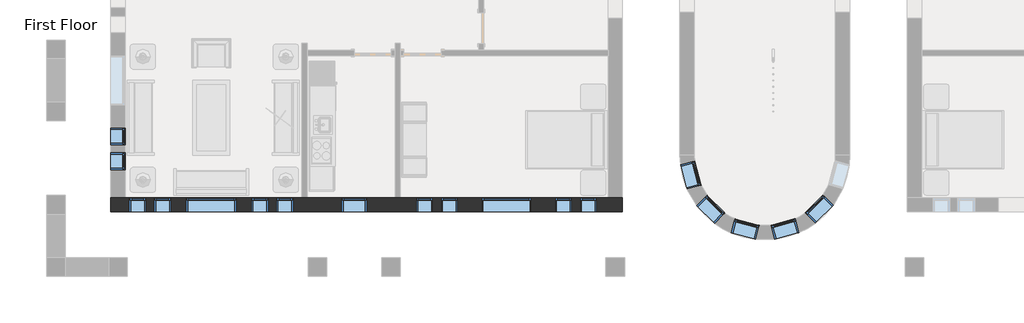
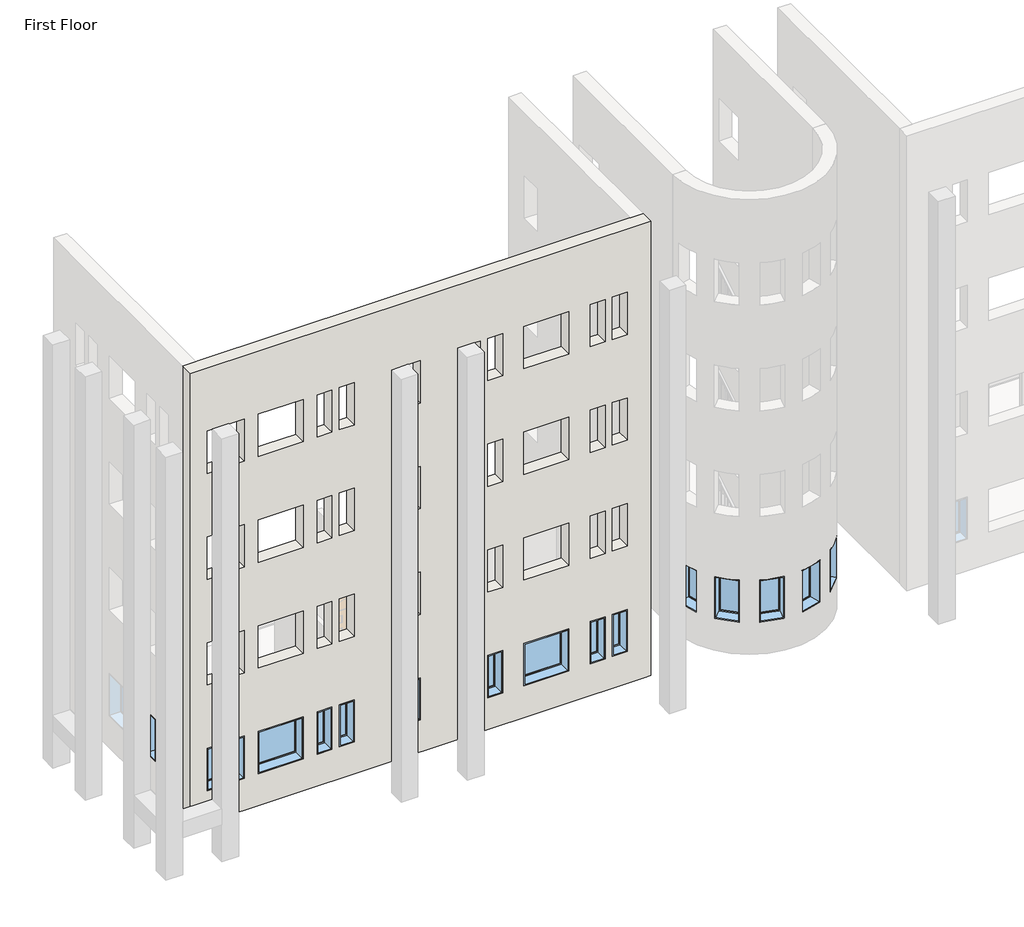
# One storey, part 1 of 21: 18 windows, 1 wall.
"""IFC4 building model written with IfcOpenShell, lengths in millimetres."""

from ifc_helpers import new_model, si_unit, origin, place, context, project, spatial, faceted_brep, transform, mapped, element, save
from components import window_da97879f, window_d61ef850, window_60baf983, window_ed80354a, window_6eb97611

model = new_model("IFC4")

# Units and contexts
model_context = context("Model", 3, world=origin())
ifc_project = project(units=[si_unit("LENGTHUNIT", "METRE", prefix="MILLI")], contexts=[model_context])

# Site, building, storey
site = spatial("IfcSite", under=ifc_project)
building = spatial("IfcBuilding", under=site)
storey = spatial("IfcBuildingStorey", under=building, Name="First Floor", Elevation=0.0)

# Wall
placement = place(None, origin())
element("IfcWall", 1, ObjectType="Exterior - Brick on Mtl. Stud", at=placement, inside=storey, context=model_context, shape_type="Brep", body=[
    faceted_brep([(-18554.6714563, -33960.9058133, 0.0), (-18741.9964563, -33960.9058133, 0.0), (-18907.0964563, -33960.9058133, 0.0), (-24001.3839563, -33960.9058133, 0.0), (-24128.3839563, -33960.9058133, 0.0), (-26287.3839563, -33960.9058133, 0.0), (-26414.3839563, -33960.9058133, 0.0), (-30746.6714563, -33960.9058133, 0.0), (-30911.7714563, -33960.9058133, 0.0), (-31099.0964563, -33960.9058133, 0.0), (-31099.0964563, -33960.9058133, 13106.4), (-30746.6714563, -33960.9058133, 13106.4), (-18907.0964563, -33960.9058133, 13106.4), (-18554.6714563, -33960.9058133, 13106.4), (-30033.8839563, -33960.9058133, 8229.6), (-30033.8839563, -33960.9058133, 7010.4), (-29627.4839563, -33960.9058133, 7010.4), (-29627.4839563, -33960.9058133, 8229.6), (-30643.4839563, -33960.9058133, 8229.6), (-30643.4839563, -33960.9058133, 7010.4), (-30237.0839563, -33960.9058133, 7010.4), (-30237.0839563, -33960.9058133, 8229.6), (-27239.8839563, -33960.9058133, 8229.6), (-27646.2839563, -33960.9058133, 8229.6), (-27646.2839563, -33960.9058133, 7010.4), (-27239.8839563, -33960.9058133, 7010.4), (-26630.2839563, -33960.9058133, 8229.6), (-27036.6839563, -33960.9058133, 8229.6), (-27036.6839563, -33960.9058133, 7010.4), (-26630.2839563, -33960.9058133, 7010.4), (-22998.0839563, -33960.9058133, 8229.6), (-22998.0839563, -33960.9058133, 7010.4), (-22591.6839563, -33960.9058133, 7010.4), (-22591.6839563, -33960.9058133, 8229.6), (-23607.6839563, -33960.9058133, 8229.6), (-23607.6839563, -33960.9058133, 7010.4), (-23201.2839563, -33960.9058133, 7010.4), (-23201.2839563, -33960.9058133, 8229.6), (-19797.6839563, -33960.9058133, 8229.6), (-20204.0839563, -33960.9058133, 8229.6), (-20204.0839563, -33960.9058133, 7010.4), (-19797.6839563, -33960.9058133, 7010.4), (-19188.0839563, -33960.9058133, 8229.6), (-19594.4839563, -33960.9058133, 8229.6), (-19594.4839563, -33960.9058133, 7010.4), (-19188.0839563, -33960.9058133, 7010.4), (-28027.2839563, -33960.9058133, 8229.6), (-29246.4839563, -33960.9058133, 8229.6), (-29246.4839563, -33960.9058133, 7010.4), (-28027.2839563, -33960.9058133, 7010.4), (-20788.2839563, -33960.9058133, 8229.6), (-22007.4839563, -33960.9058133, 8229.6), (-22007.4839563, -33960.9058133, 7010.4), (-20788.2839563, -33960.9058133, 7010.4), (-24826.8839563, -33960.9058133, 8229.6), (-25436.4839563, -33960.9058133, 8229.6), (-25436.4839563, -33960.9058133, 7010.4), (-24826.8839563, -33960.9058133, 7010.4), (-30033.8839563, -33960.9058133, 5181.6), (-30033.8839563, -33960.9058133, 3962.4), (-29627.4839563, -33960.9058133, 3962.4), (-29627.4839563, -33960.9058133, 5181.6), (-30643.4839563, -33960.9058133, 5181.6), (-30643.4839563, -33960.9058133, 3962.4), (-30237.0839563, -33960.9058133, 3962.4), (-30237.0839563, -33960.9058133, 5181.6), (-27239.8839563, -33960.9058133, 5181.6), (-27646.2839563, -33960.9058133, 5181.6), (-27646.2839563, -33960.9058133, 3962.4), (-27239.8839563, -33960.9058133, 3962.4), (-26630.2839563, -33960.9058133, 5181.6), (-27036.6839563, -33960.9058133, 5181.6), (-27036.6839563, -33960.9058133, 3962.4), (-26630.2839563, -33960.9058133, 3962.4), (-22998.0839563, -33960.9058133, 5181.6), (-22998.0839563, -33960.9058133, 3962.4), (-22591.6839563, -33960.9058133, 3962.4), (-22591.6839563, -33960.9058133, 5181.6), (-23607.6839563, -33960.9058133, 5181.6), (-23607.6839563, -33960.9058133, 3962.4), (-23201.2839563, -33960.9058133, 3962.4), (-23201.2839563, -33960.9058133, 5181.6), (-19797.6839563, -33960.9058133, 5181.6), (-20204.0839563, -33960.9058133, 5181.6), (-20204.0839563, -33960.9058133, 3962.4), (-19797.6839563, -33960.9058133, 3962.4), (-19188.0839563, -33960.9058133, 5181.6), (-19594.4839563, -33960.9058133, 5181.6), (-19594.4839563, -33960.9058133, 3962.4), (-19188.0839563, -33960.9058133, 3962.4), (-28027.2839563, -33960.9058133, 5181.6), (-29246.4839563, -33960.9058133, 5181.6), (-29246.4839563, -33960.9058133, 3962.4), (-28027.2839563, -33960.9058133, 3962.4), (-20788.2839563, -33960.9058133, 5181.6), (-22007.4839563, -33960.9058133, 5181.6), (-22007.4839563, -33960.9058133, 3962.4), (-20788.2839563, -33960.9058133, 3962.4), (-24826.8839563, -33960.9058133, 5181.6), (-25436.4839563, -33960.9058133, 5181.6), (-25436.4839563, -33960.9058133, 3962.4), (-24826.8839563, -33960.9058133, 3962.4), (-30033.8839563, -33960.9058133, 11277.6), (-30033.8839563, -33960.9058133, 10058.4), (-29627.4839563, -33960.9058133, 10058.4), (-29627.4839563, -33960.9058133, 11277.6), (-30643.4839563, -33960.9058133, 11277.6), (-30643.4839563, -33960.9058133, 10058.4), (-30237.0839563, -33960.9058133, 10058.4), (-30237.0839563, -33960.9058133, 11277.6), (-27239.8839563, -33960.9058133, 11277.6), (-27646.2839563, -33960.9058133, 11277.6), (-27646.2839563, -33960.9058133, 10058.4), (-27239.8839563, -33960.9058133, 10058.4), (-26630.2839563, -33960.9058133, 11277.6), (-27036.6839563, -33960.9058133, 11277.6), (-27036.6839563, -33960.9058133, 10058.4), (-26630.2839563, -33960.9058133, 10058.4), (-22998.0839563, -33960.9058133, 11277.6), (-22998.0839563, -33960.9058133, 10058.4), (-22591.6839563, -33960.9058133, 10058.4), (-22591.6839563, -33960.9058133, 11277.6), (-23607.6839563, -33960.9058133, 11277.6), (-23607.6839563, -33960.9058133, 10058.4), (-23201.2839563, -33960.9058133, 10058.4), (-23201.2839563, -33960.9058133, 11277.6), (-19797.6839563, -33960.9058133, 11277.6), (-20204.0839563, -33960.9058133, 11277.6), (-20204.0839563, -33960.9058133, 10058.4), (-19797.6839563, -33960.9058133, 10058.4), (-19188.0839563, -33960.9058133, 11277.6), (-19594.4839563, -33960.9058133, 11277.6), (-19594.4839563, -33960.9058133, 10058.4), (-19188.0839563, -33960.9058133, 10058.4), (-28027.2839563, -33960.9058133, 11277.6), (-29246.4839563, -33960.9058133, 11277.6), (-29246.4839563, -33960.9058133, 10058.4), (-28027.2839563, -33960.9058133, 10058.4), (-20788.2839563, -33960.9058133, 11277.6), (-22007.4839563, -33960.9058133, 11277.6), (-22007.4839563, -33960.9058133, 10058.4), (-20788.2839563, -33960.9058133, 10058.4), (-24826.8839563, -33960.9058133, 11277.6), (-25436.4839563, -33960.9058133, 11277.6), (-25436.4839563, -33960.9058133, 10058.4), (-24826.8839563, -33960.9058133, 10058.4), (-30033.8839563, -33960.9058133, 2133.6), (-30033.8839563, -33960.9058133, 914.4), (-29627.4839563, -33960.9058133, 914.4), (-29627.4839563, -33960.9058133, 2133.6), (-30643.4839563, -33960.9058133, 2133.6), (-30643.4839563, -33960.9058133, 914.4), (-30237.0839563, -33960.9058133, 914.4), (-30237.0839563, -33960.9058133, 2133.6), (-27239.8839563, -33960.9058133, 2133.6), (-27646.2839563, -33960.9058133, 2133.6), (-27646.2839563, -33960.9058133, 914.4), (-27239.8839563, -33960.9058133, 914.4), (-26630.2839563, -33960.9058133, 2133.6), (-27036.6839563, -33960.9058133, 2133.6), (-27036.6839563, -33960.9058133, 914.4), (-26630.2839563, -33960.9058133, 914.4), (-22998.0839563, -33960.9058133, 2133.6), (-22998.0839563, -33960.9058133, 914.4), (-22591.6839563, -33960.9058133, 914.4), (-22591.6839563, -33960.9058133, 2133.6), (-23607.6839563, -33960.9058133, 2133.6), (-23607.6839563, -33960.9058133, 914.4), (-23201.2839563, -33960.9058133, 914.4), (-23201.2839563, -33960.9058133, 2133.6), (-19797.6839563, -33960.9058133, 2133.6), (-20204.0839563, -33960.9058133, 2133.6), (-20204.0839563, -33960.9058133, 914.4), (-19797.6839563, -33960.9058133, 914.4), (-19188.0839563, -33960.9058133, 2133.6), (-19594.4839563, -33960.9058133, 2133.6), (-19594.4839563, -33960.9058133, 914.4), (-19188.0839563, -33960.9058133, 914.4), (-28027.2839563, -33960.9058133, 2133.6), (-29246.4839563, -33960.9058133, 2133.6), (-29246.4839563, -33960.9058133, 914.4), (-28027.2839563, -33960.9058133, 914.4), (-20788.2839563, -33960.9058133, 2133.6), (-22007.4839563, -33960.9058133, 2133.6), (-22007.4839563, -33960.9058133, 914.4), (-20788.2839563, -33960.9058133, 914.4), (-24826.8839563, -33960.9058133, 2133.6), (-25436.4839563, -33960.9058133, 2133.6), (-25436.4839563, -33960.9058133, 914.4), (-24826.8839563, -33960.9058133, 914.4), (-18554.6714563, -34313.3308133, 0.0), (-18554.6714563, -34313.3308133, 13106.4), (-31099.0964563, -34313.3308133, 13106.4), (-31099.0964563, -34313.3308133, 0.0), (-30911.7714563, -34313.3308133, 0.0), (-18741.9964563, -34313.3308133, 0.0), (-30033.8839563, -34313.3308133, 8229.6), (-29627.4839563, -34313.3308133, 8229.6), (-29627.4839563, -34313.3308133, 7010.4), (-30033.8839563, -34313.3308133, 7010.4), (-30643.4839563, -34313.3308133, 8229.6), (-30237.0839563, -34313.3308133, 8229.6), (-30237.0839563, -34313.3308133, 7010.4), (-30643.4839563, -34313.3308133, 7010.4), (-27239.8839563, -34313.3308133, 8229.6), (-27239.8839563, -34313.3308133, 7010.4), (-27646.2839563, -34313.3308133, 7010.4), (-27646.2839563, -34313.3308133, 8229.6), (-26630.2839563, -34313.3308133, 8229.6), (-26630.2839563, -34313.3308133, 7010.4), (-27036.6839563, -34313.3308133, 7010.4), (-27036.6839563, -34313.3308133, 8229.6), (-22998.0839563, -34313.3308133, 8229.6), (-22591.6839563, -34313.3308133, 8229.6), (-22591.6839563, -34313.3308133, 7010.4), (-22998.0839563, -34313.3308133, 7010.4), (-23607.6839563, -34313.3308133, 8229.6), (-23201.2839563, -34313.3308133, 8229.6), (-23201.2839563, -34313.3308133, 7010.4), (-23607.6839563, -34313.3308133, 7010.4), (-19797.6839563, -34313.3308133, 8229.6), (-19797.6839563, -34313.3308133, 7010.4), (-20204.0839563, -34313.3308133, 7010.4), (-20204.0839563, -34313.3308133, 8229.6), (-19188.0839563, -34313.3308133, 8229.6), (-19188.0839563, -34313.3308133, 7010.4), (-19594.4839563, -34313.3308133, 7010.4), (-19594.4839563, -34313.3308133, 8229.6), (-28027.2839563, -34313.3308133, 8229.6), (-28027.2839563, -34313.3308133, 7010.4), (-29246.4839563, -34313.3308133, 7010.4), (-29246.4839563, -34313.3308133, 8229.6), (-20788.2839563, -34313.3308133, 8229.6), (-20788.2839563, -34313.3308133, 7010.4), (-22007.4839563, -34313.3308133, 7010.4), (-22007.4839563, -34313.3308133, 8229.6), (-24826.8839563, -34313.3308133, 8229.6), (-24826.8839563, -34313.3308133, 7010.4), (-25436.4839563, -34313.3308133, 7010.4), (-25436.4839563, -34313.3308133, 8229.6), (-30033.8839563, -34313.3308133, 5181.6), (-29627.4839563, -34313.3308133, 5181.6), (-29627.4839563, -34313.3308133, 3962.4), (-30033.8839563, -34313.3308133, 3962.4), (-30643.4839563, -34313.3308133, 5181.6), (-30237.0839563, -34313.3308133, 5181.6), (-30237.0839563, -34313.3308133, 3962.4), (-30643.4839563, -34313.3308133, 3962.4), (-27239.8839563, -34313.3308133, 5181.6), (-27239.8839563, -34313.3308133, 3962.4), (-27646.2839563, -34313.3308133, 3962.4), (-27646.2839563, -34313.3308133, 5181.6), (-26630.2839563, -34313.3308133, 5181.6), (-26630.2839563, -34313.3308133, 3962.4), (-27036.6839563, -34313.3308133, 3962.4), (-27036.6839563, -34313.3308133, 5181.6), (-22998.0839563, -34313.3308133, 5181.6), (-22591.6839563, -34313.3308133, 5181.6), (-22591.6839563, -34313.3308133, 3962.4), (-22998.0839563, -34313.3308133, 3962.4), (-23607.6839563, -34313.3308133, 5181.6), (-23201.2839563, -34313.3308133, 5181.6), (-23201.2839563, -34313.3308133, 3962.4), (-23607.6839563, -34313.3308133, 3962.4), (-19797.6839563, -34313.3308133, 5181.6), (-19797.6839563, -34313.3308133, 3962.4), (-20204.0839563, -34313.3308133, 3962.4), (-20204.0839563, -34313.3308133, 5181.6), (-19188.0839563, -34313.3308133, 5181.6), (-19188.0839563, -34313.3308133, 3962.4), (-19594.4839563, -34313.3308133, 3962.4), (-19594.4839563, -34313.3308133, 5181.6), (-28027.2839563, -34313.3308133, 5181.6), (-28027.2839563, -34313.3308133, 3962.4), (-29246.4839563, -34313.3308133, 3962.4), (-29246.4839563, -34313.3308133, 5181.6), (-20788.2839563, -34313.3308133, 5181.6), (-20788.2839563, -34313.3308133, 3962.4), (-22007.4839563, -34313.3308133, 3962.4), (-22007.4839563, -34313.3308133, 5181.6), (-24826.8839563, -34313.3308133, 5181.6), (-24826.8839563, -34313.3308133, 3962.4), (-25436.4839563, -34313.3308133, 3962.4), (-25436.4839563, -34313.3308133, 5181.6), (-30033.8839563, -34313.3308133, 11277.6), (-29627.4839563, -34313.3308133, 11277.6), (-29627.4839563, -34313.3308133, 10058.4), (-30033.8839563, -34313.3308133, 10058.4), (-30643.4839563, -34313.3308133, 11277.6), (-30237.0839563, -34313.3308133, 11277.6), (-30237.0839563, -34313.3308133, 10058.4), (-30643.4839563, -34313.3308133, 10058.4), (-27239.8839563, -34313.3308133, 11277.6), (-27239.8839563, -34313.3308133, 10058.4), (-27646.2839563, -34313.3308133, 10058.4), (-27646.2839563, -34313.3308133, 11277.6), (-26630.2839563, -34313.3308133, 11277.6), (-26630.2839563, -34313.3308133, 10058.4), (-27036.6839563, -34313.3308133, 10058.4), (-27036.6839563, -34313.3308133, 11277.6), (-22998.0839563, -34313.3308133, 11277.6), (-22591.6839563, -34313.3308133, 11277.6), (-22591.6839563, -34313.3308133, 10058.4), (-22998.0839563, -34313.3308133, 10058.4), (-23607.6839563, -34313.3308133, 11277.6), (-23201.2839563, -34313.3308133, 11277.6), (-23201.2839563, -34313.3308133, 10058.4), (-23607.6839563, -34313.3308133, 10058.4), (-19797.6839563, -34313.3308133, 11277.6), (-19797.6839563, -34313.3308133, 10058.4), (-20204.0839563, -34313.3308133, 10058.4), (-20204.0839563, -34313.3308133, 11277.6), (-19188.0839563, -34313.3308133, 11277.6), (-19188.0839563, -34313.3308133, 10058.4), (-19594.4839563, -34313.3308133, 10058.4), (-19594.4839563, -34313.3308133, 11277.6), (-28027.2839563, -34313.3308133, 11277.6), (-28027.2839563, -34313.3308133, 10058.4), (-29246.4839563, -34313.3308133, 10058.4), (-29246.4839563, -34313.3308133, 11277.6), (-20788.2839563, -34313.3308133, 11277.6), (-20788.2839563, -34313.3308133, 10058.4), (-22007.4839563, -34313.3308133, 10058.4), (-22007.4839563, -34313.3308133, 11277.6), (-24826.8839563, -34313.3308133, 11277.6), (-24826.8839563, -34313.3308133, 10058.4), (-25436.4839563, -34313.3308133, 10058.4), (-25436.4839563, -34313.3308133, 11277.6), (-30033.8839563, -34313.3308133, 2133.6), (-29627.4839563, -34313.3308133, 2133.6), (-29627.4839563, -34313.3308133, 914.4), (-30033.8839563, -34313.3308133, 914.4), (-30643.4839563, -34313.3308133, 2133.6), (-30237.0839563, -34313.3308133, 2133.6), (-30237.0839563, -34313.3308133, 914.4), (-30643.4839563, -34313.3308133, 914.4), (-27239.8839563, -34313.3308133, 2133.6), (-27239.8839563, -34313.3308133, 914.4), (-27646.2839563, -34313.3308133, 914.4), (-27646.2839563, -34313.3308133, 2133.6), (-26630.2839563, -34313.3308133, 2133.6), (-26630.2839563, -34313.3308133, 914.4), (-27036.6839563, -34313.3308133, 914.4), (-27036.6839563, -34313.3308133, 2133.6), (-22998.0839563, -34313.3308133, 2133.6), (-22591.6839563, -34313.3308133, 2133.6), (-22591.6839563, -34313.3308133, 914.4), (-22998.0839563, -34313.3308133, 914.4), (-23607.6839563, -34313.3308133, 2133.6), (-23201.2839563, -34313.3308133, 2133.6), (-23201.2839563, -34313.3308133, 914.4), (-23607.6839563, -34313.3308133, 914.4), (-19797.6839563, -34313.3308133, 2133.6), (-19797.6839563, -34313.3308133, 914.4), (-20204.0839563, -34313.3308133, 914.4), (-20204.0839563, -34313.3308133, 2133.6), (-19188.0839563, -34313.3308133, 2133.6), (-19188.0839563, -34313.3308133, 914.4), (-19594.4839563, -34313.3308133, 914.4), (-19594.4839563, -34313.3308133, 2133.6), (-28027.2839563, -34313.3308133, 2133.6), (-28027.2839563, -34313.3308133, 914.4), (-29246.4839563, -34313.3308133, 914.4), (-29246.4839563, -34313.3308133, 2133.6), (-20788.2839563, -34313.3308133, 2133.6), (-20788.2839563, -34313.3308133, 914.4), (-22007.4839563, -34313.3308133, 914.4), (-22007.4839563, -34313.3308133, 2133.6), (-24826.8839563, -34313.3308133, 2133.6), (-24826.8839563, -34313.3308133, 914.4), (-25436.4839563, -34313.3308133, 914.4), (-25436.4839563, -34313.3308133, 2133.6), (-31099.0964563, -34126.0058133, 0.0), (-18554.6714563, -34126.0058133, 0.0), (-18741.9964563, -34126.0058133, 0.0), (-30911.7714563, -34126.0058133, 0.0)], [[[0, 1, 2, 3, 4, 5, 6, 7, 8, 9, 10, 11, 12, 13], [14, 15, 16, 17], [18, 19, 20, 21], [22, 23, 24, 25], [26, 27, 28, 29], [30, 31, 32, 33], [34, 35, 36, 37], [38, 39, 40, 41], [42, 43, 44, 45], [46, 47, 48, 49], [50, 51, 52, 53], [54, 55, 56, 57], [58, 59, 60, 61], [62, 63, 64, 65], [66, 67, 68, 69], [70, 71, 72, 73], [74, 75, 76, 77], [78, 79, 80, 81], [82, 83, 84, 85], [86, 87, 88, 89], [90, 91, 92, 93], [94, 95, 96, 97], [98, 99, 100, 101], [102, 103, 104, 105], [106, 107, 108, 109], [110, 111, 112, 113], [114, 115, 116, 117], [118, 119, 120, 121], [122, 123, 124, 125], [126, 127, 128, 129], [130, 131, 132, 133], [134, 135, 136, 137], [138, 139, 140, 141], [142, 143, 144, 145], [146, 147, 148, 149], [150, 151, 152, 153], [154, 155, 156, 157], [158, 159, 160, 161], [162, 163, 164, 165], [166, 167, 168, 169], [170, 171, 172, 173], [174, 175, 176, 177], [178, 179, 180, 181], [182, 183, 184, 185], [186, 187, 188, 189]], [[190, 191, 192, 193, 194, 195], [196, 197, 198, 199], [200, 201, 202, 203], [204, 205, 206, 207], [208, 209, 210, 211], [212, 213, 214, 215], [216, 217, 218, 219], [220, 221, 222, 223], [224, 225, 226, 227], [228, 229, 230, 231], [232, 233, 234, 235], [236, 237, 238, 239], [240, 241, 242, 243], [244, 245, 246, 247], [248, 249, 250, 251], [252, 253, 254, 255], [256, 257, 258, 259], [260, 261, 262, 263], [264, 265, 266, 267], [268, 269, 270, 271], [272, 273, 274, 275], [276, 277, 278, 279], [280, 281, 282, 283], [284, 285, 286, 287], [288, 289, 290, 291], [292, 293, 294, 295], [296, 297, 298, 299], [300, 301, 302, 303], [304, 305, 306, 307], [308, 309, 310, 311], [312, 313, 314, 315], [316, 317, 318, 319], [320, 321, 322, 323], [324, 325, 326, 327], [328, 329, 330, 331], [332, 333, 334, 335], [336, 337, 338, 339], [340, 341, 342, 343], [344, 345, 346, 347], [348, 349, 350, 351], [352, 353, 354, 355], [356, 357, 358, 359], [360, 361, 362, 363], [364, 365, 366, 367], [368, 369, 370, 371]], [[13, 12, 11, 10, 192, 191]], [[10, 9, 372, 193, 192]], [[0, 13, 191, 190, 373]], [[1, 0, 373, 374]], [[373, 190, 195, 374]], [[9, 8, 375, 372]], [[195, 194, 375, 374]], [[194, 193, 372, 375]], [[8, 7, 6, 5, 4, 3, 2, 1, 374, 375]], [[15, 14, 196, 199]], [[16, 15, 199, 198]], [[17, 16, 198, 197]], [[14, 17, 197, 196]], [[19, 18, 200, 203]], [[20, 19, 203, 202]], [[21, 20, 202, 201]], [[18, 21, 201, 200]], [[205, 204, 22, 25]], [[206, 205, 25, 24]], [[207, 206, 24, 23]], [[204, 207, 23, 22]], [[209, 208, 26, 29]], [[210, 209, 29, 28]], [[211, 210, 28, 27]], [[208, 211, 27, 26]], [[31, 30, 212, 215]], [[32, 31, 215, 214]], [[33, 32, 214, 213]], [[30, 33, 213, 212]], [[35, 34, 216, 219]], [[36, 35, 219, 218]], [[37, 36, 218, 217]], [[34, 37, 217, 216]], [[221, 220, 38, 41]], [[222, 221, 41, 40]], [[223, 222, 40, 39]], [[220, 223, 39, 38]], [[225, 224, 42, 45]], [[226, 225, 45, 44]], [[227, 226, 44, 43]], [[224, 227, 43, 42]], [[229, 228, 46, 49]], [[230, 229, 49, 48]], [[231, 230, 48, 47]], [[228, 231, 47, 46]], [[233, 232, 50, 53]], [[234, 233, 53, 52]], [[235, 234, 52, 51]], [[232, 235, 51, 50]], [[237, 236, 54, 57]], [[238, 237, 57, 56]], [[239, 238, 56, 55]], [[236, 239, 55, 54]], [[59, 58, 240, 243]], [[60, 59, 243, 242]], [[61, 60, 242, 241]], [[58, 61, 241, 240]], [[63, 62, 244, 247]], [[64, 63, 247, 246]], [[65, 64, 246, 245]], [[62, 65, 245, 244]], [[249, 248, 66, 69]], [[250, 249, 69, 68]], [[251, 250, 68, 67]], [[248, 251, 67, 66]], [[253, 252, 70, 73]], [[254, 253, 73, 72]], [[255, 254, 72, 71]], [[252, 255, 71, 70]], [[75, 74, 256, 259]], [[76, 75, 259, 258]], [[77, 76, 258, 257]], [[74, 77, 257, 256]], [[79, 78, 260, 263]], [[80, 79, 263, 262]], [[81, 80, 262, 261]], [[78, 81, 261, 260]], [[265, 264, 82, 85]], [[266, 265, 85, 84]], [[267, 266, 84, 83]], [[264, 267, 83, 82]], [[269, 268, 86, 89]], [[270, 269, 89, 88]], [[271, 270, 88, 87]], [[268, 271, 87, 86]], [[273, 272, 90, 93]], [[274, 273, 93, 92]], [[275, 274, 92, 91]], [[272, 275, 91, 90]], [[277, 276, 94, 97]], [[278, 277, 97, 96]], [[279, 278, 96, 95]], [[276, 279, 95, 94]], [[281, 280, 98, 101]], [[282, 281, 101, 100]], [[283, 282, 100, 99]], [[280, 283, 99, 98]], [[103, 102, 284, 287]], [[104, 103, 287, 286]], [[105, 104, 286, 285]], [[102, 105, 285, 284]], [[107, 106, 288, 291]], [[108, 107, 291, 290]], [[109, 108, 290, 289]], [[106, 109, 289, 288]], [[293, 292, 110, 113]], [[294, 293, 113, 112]], [[295, 294, 112, 111]], [[292, 295, 111, 110]], [[297, 296, 114, 117]], [[298, 297, 117, 116]], [[299, 298, 116, 115]], [[296, 299, 115, 114]], [[119, 118, 300, 303]], [[120, 119, 303, 302]], [[121, 120, 302, 301]], [[118, 121, 301, 300]], [[123, 122, 304, 307]], [[124, 123, 307, 306]], [[125, 124, 306, 305]], [[122, 125, 305, 304]], [[309, 308, 126, 129]], [[310, 309, 129, 128]], [[311, 310, 128, 127]], [[308, 311, 127, 126]], [[313, 312, 130, 133]], [[314, 313, 133, 132]], [[315, 314, 132, 131]], [[312, 315, 131, 130]], [[317, 316, 134, 137]], [[318, 317, 137, 136]], [[319, 318, 136, 135]], [[316, 319, 135, 134]], [[321, 320, 138, 141]], [[322, 321, 141, 140]], [[323, 322, 140, 139]], [[320, 323, 139, 138]], [[325, 324, 142, 145]], [[326, 325, 145, 144]], [[327, 326, 144, 143]], [[324, 327, 143, 142]], [[147, 146, 328, 331]], [[148, 147, 331, 330]], [[149, 148, 330, 329]], [[146, 149, 329, 328]], [[151, 150, 332, 335]], [[152, 151, 335, 334]], [[153, 152, 334, 333]], [[150, 153, 333, 332]], [[337, 336, 154, 157]], [[338, 337, 157, 156]], [[339, 338, 156, 155]], [[336, 339, 155, 154]], [[341, 340, 158, 161]], [[342, 341, 161, 160]], [[343, 342, 160, 159]], [[340, 343, 159, 158]], [[163, 162, 344, 347]], [[164, 163, 347, 346]], [[165, 164, 346, 345]], [[162, 165, 345, 344]], [[167, 166, 348, 351]], [[168, 167, 351, 350]], [[169, 168, 350, 349]], [[166, 169, 349, 348]], [[353, 352, 170, 173]], [[354, 353, 173, 172]], [[355, 354, 172, 171]], [[352, 355, 171, 170]], [[357, 356, 174, 177]], [[358, 357, 177, 176]], [[359, 358, 176, 175]], [[356, 359, 175, 174]], [[361, 360, 178, 181]], [[362, 361, 181, 180]], [[363, 362, 180, 179]], [[360, 363, 179, 178]], [[365, 364, 182, 185]], [[366, 365, 185, 184]], [[367, 366, 184, 183]], [[364, 367, 183, 182]], [[369, 368, 186, 189]], [[370, 369, 189, 188]], [[371, 370, 188, 187]], [[368, 371, 187, 186]]]),
])

# Windows
window_shape = window_da97879f(model_context)
element("IfcWindow", 2, ObjectType="Fixed : 16\" x 48\"", at=placement, inside=storey, context=model_context, shape_type="MappedRepresentation", body=[
    mapped(window_shape, transform((-19353.1839563, -34137.1183133, 0.0), x_axis=(1.0, 0.0, 0.0), y_axis=(0.0, 1.0, 0.0), z_axis=(0.0, 0.0, 1.0))),
])
element("IfcWindow", 3, ObjectType="Fixed : 16\" x 48\"", at=placement, inside=storey, context=model_context, shape_type="MappedRepresentation", body=[
    mapped(window_shape, transform((-19962.7839563, -34137.1183133, 0.0), x_axis=(1.0, 0.0, 0.0), y_axis=(0.0, 1.0, 0.0), z_axis=(0.0, 0.0, 1.0))),
])
element("IfcWindow", 4, ObjectType="Fixed : 16\" x 48\"", at=placement, inside=storey, context=model_context, shape_type="MappedRepresentation", body=[
    mapped(window_shape, transform((-26795.3839563, -34137.1183133, 0.0), x_axis=(1.0, 0.0, 0.0), y_axis=(0.0, 1.0, 0.0), z_axis=(0.0, 0.0, 1.0))),
])
element("IfcWindow", 5, ObjectType="Fixed : 16\" x 48\"", at=placement, inside=storey, context=model_context, shape_type="MappedRepresentation", body=[
    mapped(window_shape, transform((-27404.9839563, -34137.1183133, 0.0), x_axis=(1.0, 0.0, 0.0), y_axis=(0.0, 1.0, 0.0), z_axis=(0.0, 0.0, 1.0))),
])
element("IfcWindow", 6, ObjectType="Fixed : 16\" x 48\"", at=placement, inside=storey, context=model_context, shape_type="MappedRepresentation", body=[
    mapped(window_shape, transform((-30922.8839563, -33108.4183133, 0.0), x_axis=(0.0, -1.0, 0.0), y_axis=(1.0, 0.0, 0.0), z_axis=(0.0, 0.0, 1.0))),
])
element("IfcWindow", 7, ObjectType="Fixed : 16\" x 48\"", at=placement, inside=storey, context=model_context, shape_type="MappedRepresentation", body=[
    mapped(window_shape, transform((-30922.8839563, -32498.8183133, 0.0), x_axis=(0.0, -1.0, 0.0), y_axis=(1.0, 0.0, 0.0), z_axis=(0.0, 0.0, 1.0))),
])
window_2_shape = window_d61ef850(model_context)
element("IfcWindow", 8, ObjectType="Fixed : 16\" x 48\"", at=placement, inside=storey, context=model_context, shape_type="MappedRepresentation", body=[
    mapped(window_2_shape, transform((-23442.5839563, -34137.1183133, 0.0), x_axis=(-1.0, 0.0, 0.0), y_axis=(0.0, -1.0, 0.0), z_axis=(0.0, 0.0, 1.0))),
])
element("IfcWindow", 9, ObjectType="Fixed : 16\" x 48\"", at=placement, inside=storey, context=model_context, shape_type="MappedRepresentation", body=[
    mapped(window_2_shape, transform((-22832.9839563, -34137.1183133, 0.0), x_axis=(-1.0, 0.0, 0.0), y_axis=(0.0, -1.0, 0.0), z_axis=(0.0, 0.0, 1.0))),
])
element("IfcWindow", 10, ObjectType="Fixed : 16\" x 48\"", at=placement, inside=storey, context=model_context, shape_type="MappedRepresentation", body=[
    mapped(window_2_shape, transform((-30478.3839563, -34137.1183133, 0.0), x_axis=(-1.0, 0.0, 0.0), y_axis=(0.0, -1.0, 0.0), z_axis=(0.0, 0.0, 1.0))),
])
element("IfcWindow", 11, ObjectType="Fixed : 16\" x 48\"", at=placement, inside=storey, context=model_context, shape_type="MappedRepresentation", body=[
    mapped(window_2_shape, transform((-29868.7839563, -34137.1183133, 0.0), x_axis=(-1.0, 0.0, 0.0), y_axis=(0.0, -1.0, 0.0), z_axis=(0.0, 0.0, 1.0))),
])
window_3_shape = window_60baf983(model_context)
element("IfcWindow", 12, ObjectType="Fixed : 24\" x 48\"", at=placement, inside=storey, context=model_context, shape_type="MappedRepresentation", body=[
    mapped(window_3_shape, transform((-25093.5839563, -34137.1183133, 0.0), x_axis=(1.0, 0.0, 0.0), y_axis=(0.0, 1.0, 0.0), z_axis=(0.0, 0.0, 1.0))),
])
window_4_shape = window_ed80354a(model_context)
element("IfcWindow", 13, ObjectType="Fixed : 24\" x 48\"", at=placement, inside=storey, context=model_context, shape_type="MappedRepresentation", body=[
    mapped(window_4_shape, transform((-16884.5848795, -33372.7135131, 0.0), x_axis=(-0.2617614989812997, 0.9651325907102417, 0.0), y_axis=(-0.9651325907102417, -0.2617614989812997, 0.0), z_axis=(0.0, 0.0, 1.0))),
])
element("IfcWindow", 14, ObjectType="Fixed : 24\" x 48\"", at=placement, inside=storey, context=model_context, shape_type="MappedRepresentation", body=[
    mapped(window_4_shape, transform((-16413.0301771, -34222.9892215, 0.0), x_axis=(-0.7092584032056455, 0.7049485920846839, 0.0), y_axis=(-0.7049485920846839, -0.7092584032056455, 0.0), z_axis=(0.0, 0.0, 1.0))),
])
element("IfcWindow", 15, ObjectType="Fixed : 24\" x 48\"", at=placement, inside=storey, context=model_context, shape_type="MappedRepresentation", body=[
    mapped(window_4_shape, transform((-15579.5139714, -34723.5722339, 0.0), x_axis=(-0.9667100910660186, 0.25587418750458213, 0.0), y_axis=(-0.25587418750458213, -0.9667100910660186, 0.0), z_axis=(0.0, 0.0, 1.0))),
])
element("IfcWindow", 16, ObjectType="Fixed : 24\" x 48\"", at=placement, inside=storey, context=model_context, shape_type="MappedRepresentation", body=[
    mapped(window_4_shape, transform((-14607.3762565, -34740.3317365, 0.0), x_axis=(-0.9651325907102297, -0.2617614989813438, 0.0), y_axis=(0.2617614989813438, -0.9651325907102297, 0.0), z_axis=(0.0, 0.0, 1.0))),
])
element("IfcWindow", 17, ObjectType="Fixed : 24\" x 48\"", at=placement, inside=storey, context=model_context, shape_type="MappedRepresentation", body=[
    mapped(window_4_shape, transform((-13757.1005482, -34268.7770341, 0.0), x_axis=(-0.7049485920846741, -0.7092584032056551, 0.0), y_axis=(0.7092584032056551, -0.7049485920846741, 0.0), z_axis=(0.0, 0.0, 1.0))),
])
window_5_shape = window_6eb97611(model_context)
element("IfcWindow", 18, ObjectType="Fixed : 48\" x 48\"", at=placement, inside=storey, context=model_context, shape_type="MappedRepresentation", body=[
    mapped(window_5_shape, transform((-21359.7839563, -34137.1183133, 0.0), x_axis=(1.0, 0.0, 0.0), y_axis=(0.0, 1.0, 0.0), z_axis=(0.0, 0.0, 1.0))),
])
element("IfcWindow", 19, ObjectType="Fixed : 48\" x 48\"", at=placement, inside=storey, context=model_context, shape_type="MappedRepresentation", body=[
    mapped(window_5_shape, transform((-28598.7839563, -34137.1183133, 0.0), x_axis=(1.0, 0.0, 0.0), y_axis=(0.0, 1.0, 0.0), z_axis=(0.0, 0.0, 1.0))),
])

save(model, "model.ifc")
